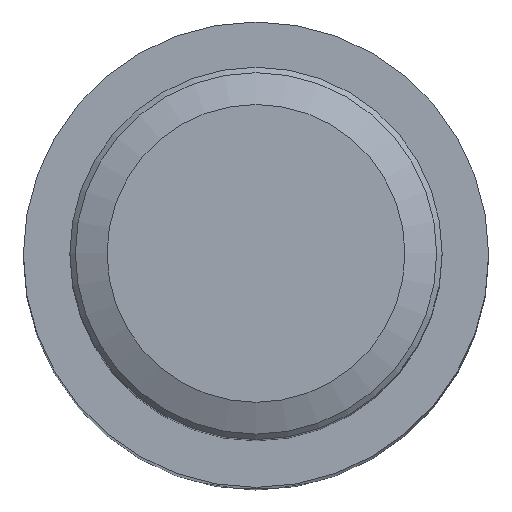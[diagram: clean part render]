
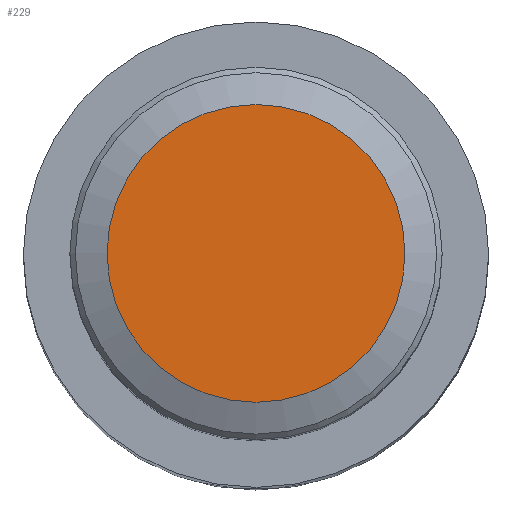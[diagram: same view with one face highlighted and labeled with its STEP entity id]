
A CAD part, top view. The second image highlights one B-rep face of the part: STEP entity #229.
In plain terms, the highlighted planar face has unit normal (0, 0, 1).
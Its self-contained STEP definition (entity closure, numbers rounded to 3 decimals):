
#110 = CONICAL_SURFACE('',#111,8.,1.178);
#111 = AXIS2_PLACEMENT_3D('',#112,#113,#114);
#112 = CARTESIAN_POINT('',(0.,0.,160.));
#113 = DIRECTION('',(-0.,-0.,-1.));
#114 = DIRECTION('',(1.,0.,0.));
#126 = VERTEX_POINT('',#127);
#127 = CARTESIAN_POINT('',(8.,0.,160.));
#148 = EDGE_CURVE('',#126,#126,#149,.T.);
#149 = SURFACE_CURVE('',#150,(#155,#162),.PCURVE_S1.);
#150 = CIRCLE('',#151,8.);
#151 = AXIS2_PLACEMENT_3D('',#152,#153,#154);
#152 = CARTESIAN_POINT('',(0.,0.,160.));
#153 = DIRECTION('',(0.,0.,1.));
#154 = DIRECTION('',(1.,0.,-0.));
#155 = PCURVE('',#110,#156);
#156 = DEFINITIONAL_REPRESENTATION('',(#157),#161);
#157 = LINE('',#158,#159);
#158 = CARTESIAN_POINT('',(-0.,-0.));
#159 = VECTOR('',#160,1.);
#160 = DIRECTION('',(-1.,-0.));
#161 = ( GEOMETRIC_REPRESENTATION_CONTEXT(2) 
PARAMETRIC_REPRESENTATION_CONTEXT() REPRESENTATION_CONTEXT('2D SPACE',''
  ) );
#162 = PCURVE('',#163,#168);
#163 = PLANE('',#164);
#164 = AXIS2_PLACEMENT_3D('',#165,#166,#167);
#165 = CARTESIAN_POINT('',(0.,0.,160.)
  );
#166 = DIRECTION('',(0.,0.,1.));
#167 = DIRECTION('',(1.,0.,-0.));
#168 = DEFINITIONAL_REPRESENTATION('',(#169),#173);
#169 = CIRCLE('',#170,8.);
#170 = AXIS2_PLACEMENT_2D('',#171,#172);
#171 = CARTESIAN_POINT('',(0.,0.));
#172 = DIRECTION('',(1.,0.));
#173 = ( GEOMETRIC_REPRESENTATION_CONTEXT(2) 
PARAMETRIC_REPRESENTATION_CONTEXT() REPRESENTATION_CONTEXT('2D SPACE',''
  ) );
#229 = ADVANCED_FACE('',(#230),#163,.T.);
#230 = FACE_BOUND('',#231,.T.);
#231 = EDGE_LOOP('',(#232));
#232 = ORIENTED_EDGE('',*,*,#148,.T.);
